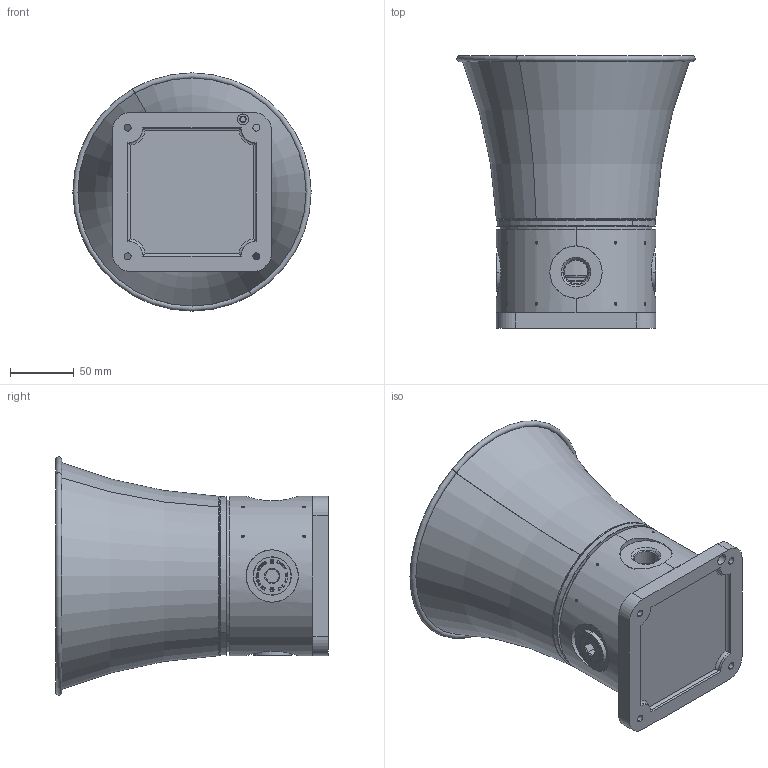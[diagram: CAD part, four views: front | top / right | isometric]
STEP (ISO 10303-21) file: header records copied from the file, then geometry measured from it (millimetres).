
FILE_DESCRIPTION((''),'2;1');
FILE_NAME('0-SD125-SOUNDER-W_ASM','2015-12-21T',('Administrator'),(''),'PRO/ENGINEER BY PARAMETRIC TECHNOLOGY CORPORATION, 2008090','PRO/ENGINEER BY PARAMETRIC TECHNOLOGY CORPORATION, 2008090','');
FILE_SCHEMA(('CONFIG_CONTROL_DESIGN'));
Length unit declared in the file: millimetre
Products named in the file (23): 55060110101; 55050110103; 50050180237; 50050140504; 50050150505; CG; HS; 50050150506; MQ; 50050150501; 55050110108; 50050110507; 0-55050100620_ASM; 50050110106; 50050110105; M4-10; 50050110104; 50050110216; 55100110920; 50070150601; 50070120605; PCB-SD125-W_ASM; 0-SD125-SOUNDER-W_ASM
Assembly tree (29 placements, depth 3):
  0-SD125-SOUNDER-W_ASM
    55060110101
    55050110103
    50050180237
    0-55050100620_ASM
      50050140504
      50050150505
      CG
      HS
      50050150506
      MQ
      50050150501
      55050110108
      50050110507
    50050110106
    50050110105
    M4-10  x3
    50050110104
    50050110216  x4
    55100110920  x3
    PCB-SD125-W_ASM
      50070150601
      50070120605
Bounding box: 187 x 213.8 x 187 mm (x, y, z)
Volume: 742598.5 mm3; surface area: 510800.7 mm2
Topology: 27 solids, 74 shells, 4615 faces, 12551 edges, 8274 vertices
Faces by surface type: plane 3609, cylinder 620, cone 262, torus 86, bspline 24, sphere 14
Entity records: 73409 total; most frequent: CARTESIAN_POINT 16394, DIRECTION 11696, ORIENTED_EDGE 11636, EDGE_CURVE 5893, VECTOR 4142, LINE 4142, VERTEX_POINT 3878, AXIS2_PLACEMENT_3D 3777
